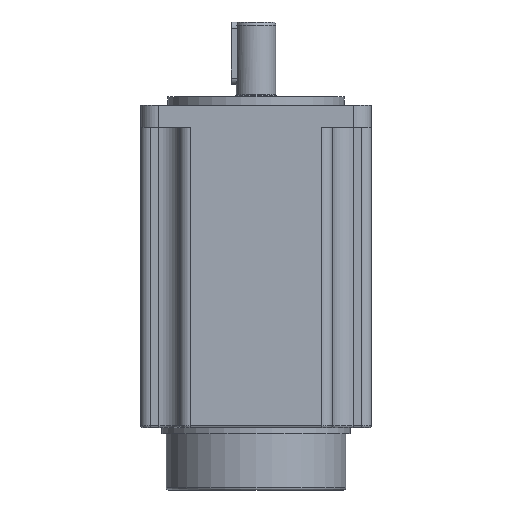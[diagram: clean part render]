
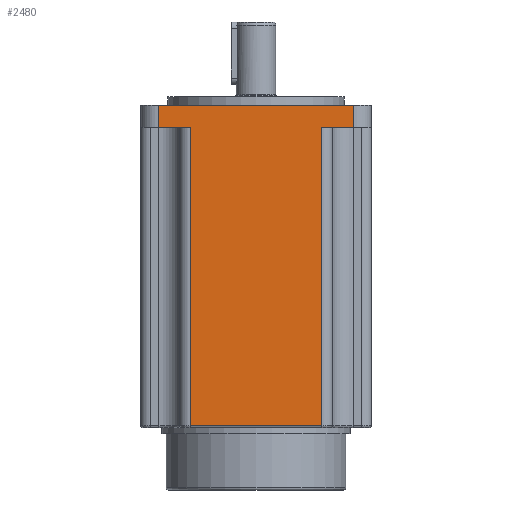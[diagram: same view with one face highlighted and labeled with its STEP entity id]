
A CAD part, front view. The second image highlights one B-rep face of the part: STEP entity #2480.
In plain terms, the highlighted planar face has unit normal (0, -1, 0).
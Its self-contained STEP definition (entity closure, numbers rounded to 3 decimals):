
#118 = ORIENTED_EDGE ( 'NONE', *, *, #2340, .F. ) ;
#644 = ORIENTED_EDGE ( 'NONE', *, *, #2127, .T. ) ;
#697 = CARTESIAN_POINT ( 'NONE',  ( 46.9, -55.5, 0. ) ) ;
#860 = VERTEX_POINT ( 'NONE', #2338 ) ;
#886 = DIRECTION ( 'NONE',  ( 0., 1., 0. ) ) ;
#1023 = CARTESIAN_POINT ( 'NONE',  ( -46.9, -55.5, 0. ) ) ;
#1105 = LINE ( 'NONE', #5308, #7918 ) ;
#1342 = VERTEX_POINT ( 'NONE', #4977 ) ;
#1344 = DIRECTION ( 'NONE',  ( 0., 0., 1. ) ) ;
#1422 = LINE ( 'NONE', #3806, #4955 ) ;
#1423 = EDGE_CURVE ( 'NONE', #860, #1342, #1422, .T. ) ;
#1482 = LINE ( 'NONE', #1023, #6348 ) ;
#1633 = ORIENTED_EDGE ( 'NONE', *, *, #2216, .T. ) ;
#1677 = DIRECTION ( 'NONE',  ( 1., 0., 0. ) ) ;
#1807 = EDGE_CURVE ( 'NONE', #860, #7485, #2970, .T. ) ;
#1920 = LINE ( 'NONE', #7820, #5455 ) ;
#1994 = CARTESIAN_POINT ( 'NONE',  ( -46.9, -55.5, -143.3 ) ) ;
#2085 = ORIENTED_EDGE ( 'NONE', *, *, #2904, .T. ) ;
#2127 = EDGE_CURVE ( 'NONE', #7283, #2910, #7718, .T. ) ;
#2201 = EDGE_LOOP ( 'NONE', ( #118, #2085, #644, #1633, #7857, #7653, #3308, #6095 ) ) ;
#2216 = EDGE_CURVE ( 'NONE', #2910, #4529, #7404, .T. ) ;
#2234 = EDGE_CURVE ( 'NONE', #7485, #4529, #1920, .T. ) ;
#2251 = CARTESIAN_POINT ( 'NONE',  ( -46.9, -55.5, 10.7 ) ) ;
#2338 = CARTESIAN_POINT ( 'NONE',  ( -46.9, -55.5, 10.7 ) ) ;
#2340 = EDGE_CURVE ( 'NONE', #3759, #7401, #1105, .T. ) ;
#2480 = ADVANCED_FACE ( 'NONE', ( #3388 ), #6798, .F. ) ;
#2755 = VECTOR ( 'NONE', #6234, 1000. ) ;
#2904 = EDGE_CURVE ( 'NONE', #3759, #7283, #5332, .T. ) ;
#2910 = VERTEX_POINT ( 'NONE', #3342 ) ;
#2970 = LINE ( 'NONE', #2251, #2755 ) ;
#3238 = AXIS2_PLACEMENT_3D ( 'NONE', #4860, #886, #5507 ) ;
#3308 = ORIENTED_EDGE ( 'NONE', *, *, #1423, .T. ) ;
#3342 = CARTESIAN_POINT ( 'NONE',  ( 31.65, -55.5, 0. ) ) ;
#3388 = FACE_OUTER_BOUND ( 'NONE', #2201, .T. ) ;
#3710 = CARTESIAN_POINT ( 'NONE',  ( 31.65, -55.5, -144.3 ) ) ;
#3759 = VERTEX_POINT ( 'NONE', #7310 ) ;
#3802 = VECTOR ( 'NONE', #5967, 1000. ) ;
#3806 = CARTESIAN_POINT ( 'NONE',  ( -46.9, -55.5, 10.7 ) ) ;
#3881 = DIRECTION ( 'NONE',  ( 0., 0., -1. ) ) ;
#4015 = CARTESIAN_POINT ( 'NONE',  ( -31.65, -55.5, 0. ) ) ;
#4498 = CARTESIAN_POINT ( 'NONE',  ( -46.9, -55.5, 0. ) ) ;
#4504 = CARTESIAN_POINT ( 'NONE',  ( 31.65, -55.5, -143.3 ) ) ;
#4529 = VERTEX_POINT ( 'NONE', #697 ) ;
#4860 = CARTESIAN_POINT ( 'NONE',  ( -46.9, -55.5, 10.7 ) ) ;
#4955 = VECTOR ( 'NONE', #8404, 1000. ) ;
#4977 = CARTESIAN_POINT ( 'NONE',  ( -46.9, -55.5, 0. ) ) ;
#5308 = CARTESIAN_POINT ( 'NONE',  ( -31.65, -55.5, -144.3 ) ) ;
#5332 = LINE ( 'NONE', #1994, #3802 ) ;
#5455 = VECTOR ( 'NONE', #3881, 1000. ) ;
#5507 = DIRECTION ( 'NONE',  ( 0., 0., 1. ) ) ;
#5660 = VECTOR ( 'NONE', #7119, 1000. ) ;
#5967 = DIRECTION ( 'NONE',  ( 1., 0., 0. ) ) ;
#5970 = VECTOR ( 'NONE', #7012, 1000. ) ;
#6095 = ORIENTED_EDGE ( 'NONE', *, *, #6503, .T. ) ;
#6234 = DIRECTION ( 'NONE',  ( 1., 0., 0. ) ) ;
#6348 = VECTOR ( 'NONE', #1677, 1000. ) ;
#6503 = EDGE_CURVE ( 'NONE', #1342, #7401, #1482, .T. ) ;
#6798 = PLANE ( 'NONE',  #3238 ) ;
#7012 = DIRECTION ( 'NONE',  ( 0., 0., 1. ) ) ;
#7119 = DIRECTION ( 'NONE',  ( 1., 0., 0. ) ) ;
#7283 = VERTEX_POINT ( 'NONE', #4504 ) ;
#7310 = CARTESIAN_POINT ( 'NONE',  ( -31.65, -55.5, -143.3 ) ) ;
#7401 = VERTEX_POINT ( 'NONE', #4015 ) ;
#7404 = LINE ( 'NONE', #4498, #5660 ) ;
#7485 = VERTEX_POINT ( 'NONE', #8047 ) ;
#7653 = ORIENTED_EDGE ( 'NONE', *, *, #1807, .F. ) ;
#7718 = LINE ( 'NONE', #3710, #5970 ) ;
#7820 = CARTESIAN_POINT ( 'NONE',  ( 46.9, -55.5, 10.7 ) ) ;
#7857 = ORIENTED_EDGE ( 'NONE', *, *, #2234, .F. ) ;
#7918 = VECTOR ( 'NONE', #1344, 1000. ) ;
#8047 = CARTESIAN_POINT ( 'NONE',  ( 46.9, -55.5, 10.7 ) ) ;
#8404 = DIRECTION ( 'NONE',  ( 0., 0., -1. ) ) ;
